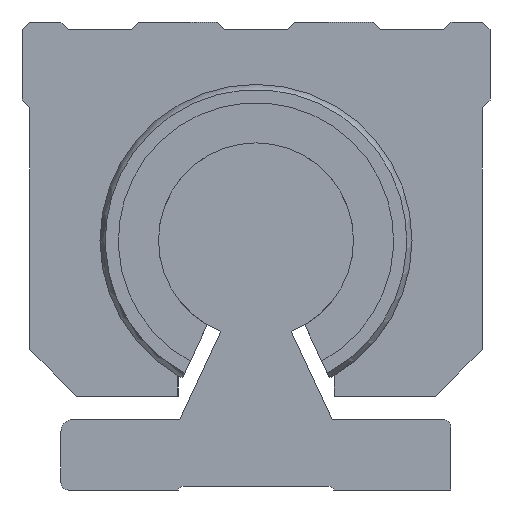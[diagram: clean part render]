
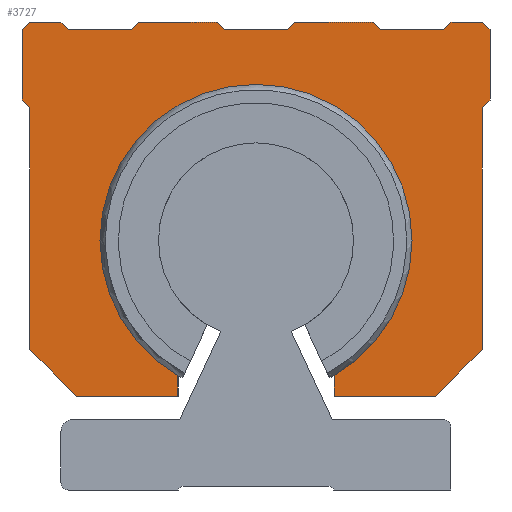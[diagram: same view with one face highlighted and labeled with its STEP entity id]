
A CAD part, left-side view. The second image highlights one B-rep face of the part: STEP entity #3727.
In plain terms, the highlighted planar face has unit normal (-1, 0, 0).
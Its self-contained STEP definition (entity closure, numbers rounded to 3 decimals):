
#3146=CARTESIAN_POINT('',(263.321,-10.,14.679));
#3147=VERTEX_POINT('',#3146);
#3154=CARTESIAN_POINT('',(263.321,10.,14.679));
#3155=VERTEX_POINT('',#3154);
#3156=CARTESIAN_POINT('',(263.321,0.,32.0));
#3157=DIRECTION('',(-1.0,0.0,0.0));
#3158=DIRECTION('',(0.0,-0.5,0.866));
#3159=AXIS2_PLACEMENT_3D('',#3156,#3157,#3158);
#3160=CIRCLE('',#3159,20.);
#3161=EDGE_CURVE('',#3147,#3155,#3160,.T.);
#3253=CARTESIAN_POINT('',(263.321,-15.,60.0));
#3254=VERTEX_POINT('',#3253);
#3255=CARTESIAN_POINT('',(263.321,-16.,59.));
#3256=VERTEX_POINT('',#3255);
#3257=CARTESIAN_POINT('',(263.321,-15.,60.0));
#3258=DIRECTION('',(0.0,-0.707,-0.707));
#3259=VECTOR('',#3258,1.414);
#3260=LINE('',#3257,#3259);
#3261=EDGE_CURVE('',#3254,#3256,#3260,.T.);
#3294=CARTESIAN_POINT('',(263.321,-24.,59.));
#3295=VERTEX_POINT('',#3294);
#3296=CARTESIAN_POINT('',(263.321,-16.,59.));
#3297=DIRECTION('',(0.0,-1.0,0.0));
#3298=VECTOR('',#3297,8.);
#3299=LINE('',#3296,#3298);
#3300=EDGE_CURVE('',#3256,#3295,#3299,.T.);
#3346=CARTESIAN_POINT('',(263.321,-4.,59.));
#3347=VERTEX_POINT('',#3346);
#3348=CARTESIAN_POINT('',(263.321,-5.,60.0));
#3349=VERTEX_POINT('',#3348);
#3350=CARTESIAN_POINT('',(263.321,-4.,59.));
#3351=DIRECTION('',(0.0,-0.707,0.707));
#3352=VECTOR('',#3351,1.414);
#3353=LINE('',#3350,#3352);
#3354=EDGE_CURVE('',#3347,#3349,#3353,.T.);
#3386=CARTESIAN_POINT('',(263.321,-25.,60.0));
#3387=VERTEX_POINT('',#3386);
#3388=CARTESIAN_POINT('',(263.321,-24.,59.));
#3389=DIRECTION('',(0.0,-0.707,0.707));
#3390=VECTOR('',#3389,1.414);
#3391=LINE('',#3388,#3390);
#3392=EDGE_CURVE('',#3295,#3387,#3391,.T.);
#3417=CARTESIAN_POINT('',(263.321,25.,60.0));
#3418=VERTEX_POINT('',#3417);
#3419=CARTESIAN_POINT('',(263.321,24.,59.));
#3420=VERTEX_POINT('',#3419);
#3421=CARTESIAN_POINT('',(263.321,25.,60.0));
#3422=DIRECTION('',(0.0,-0.707,-0.707));
#3423=VECTOR('',#3422,1.414);
#3424=LINE('',#3421,#3423);
#3425=EDGE_CURVE('',#3418,#3420,#3424,.T.);
#3458=CARTESIAN_POINT('',(263.321,16.,59.));
#3459=VERTEX_POINT('',#3458);
#3460=CARTESIAN_POINT('',(263.321,24.,59.));
#3461=DIRECTION('',(0.0,-1.0,0.0));
#3462=VECTOR('',#3461,8.0);
#3463=LINE('',#3460,#3462);
#3464=EDGE_CURVE('',#3420,#3459,#3463,.T.);
#3520=CARTESIAN_POINT('',(263.321,30.,59.));
#3521=VERTEX_POINT('',#3520);
#3528=CARTESIAN_POINT('',(263.321,29.,60.0));
#3529=VERTEX_POINT('',#3528);
#3530=CARTESIAN_POINT('',(263.321,30.,59.));
#3531=DIRECTION('',(0.0,-0.707,0.707));
#3532=VECTOR('',#3531,1.414);
#3533=LINE('',#3530,#3532);
#3534=EDGE_CURVE('',#3521,#3529,#3533,.T.);
#3551=CARTESIAN_POINT('',(263.321,29.,60.0));
#3552=DIRECTION('',(0.0,-1.0,0.0));
#3553=VECTOR('',#3552,4.);
#3554=LINE('',#3551,#3553);
#3555=EDGE_CURVE('',#3529,#3418,#3554,.T.);
#3567=CARTESIAN_POINT('',(263.321,-10.,59.5));
#3568=DIRECTION('',(1.0,0.0,0.0));
#3569=DIRECTION('',(0.0,0.0,-1.0));
#3570=AXIS2_PLACEMENT_3D('',#3567,#3568,#3569);
#3571=PLANE('',#3570);
#3572=ORIENTED_EDGE('',*,*,#3534,.F.);
#3573=CARTESIAN_POINT('',(263.321,30.,50.0));
#3574=VERTEX_POINT('',#3573);
#3575=CARTESIAN_POINT('',(263.321,30.,50.0));
#3576=DIRECTION('',(0.0,0.0,1.0));
#3577=VECTOR('',#3576,9.);
#3578=LINE('',#3575,#3577);
#3579=EDGE_CURVE('',#3574,#3521,#3578,.T.);
#3580=ORIENTED_EDGE('',*,*,#3579,.F.);
#3581=CARTESIAN_POINT('',(263.321,29.,49.));
#3582=VERTEX_POINT('',#3581);
#3583=CARTESIAN_POINT('',(263.321,29.,49.));
#3584=DIRECTION('',(0.0,0.707,0.707));
#3585=VECTOR('',#3584,1.414);
#3586=LINE('',#3583,#3585);
#3587=EDGE_CURVE('',#3582,#3574,#3586,.T.);
#3588=ORIENTED_EDGE('',*,*,#3587,.F.);
#3589=CARTESIAN_POINT('',(263.321,29.,18.));
#3590=VERTEX_POINT('',#3589);
#3591=CARTESIAN_POINT('',(263.321,29.,18.));
#3592=DIRECTION('',(0.0,0.0,1.0));
#3593=VECTOR('',#3592,31.0);
#3594=LINE('',#3591,#3593);
#3595=EDGE_CURVE('',#3590,#3582,#3594,.T.);
#3596=ORIENTED_EDGE('',*,*,#3595,.F.);
#3597=CARTESIAN_POINT('',(263.321,23.,12.));
#3598=VERTEX_POINT('',#3597);
#3599=CARTESIAN_POINT('',(263.321,23.,12.));
#3600=DIRECTION('',(0.0,0.707,0.707));
#3601=VECTOR('',#3600,8.485);
#3602=LINE('',#3599,#3601);
#3603=EDGE_CURVE('',#3598,#3590,#3602,.T.);
#3604=ORIENTED_EDGE('',*,*,#3603,.F.);
#3605=CARTESIAN_POINT('',(263.321,10.,12.));
#3606=VERTEX_POINT('',#3605);
#3607=CARTESIAN_POINT('',(263.321,10.,12.));
#3608=DIRECTION('',(0.0,1.0,0.0));
#3609=VECTOR('',#3608,13.);
#3610=LINE('',#3607,#3609);
#3611=EDGE_CURVE('',#3606,#3598,#3610,.T.);
#3612=ORIENTED_EDGE('',*,*,#3611,.F.);
#3613=CARTESIAN_POINT('',(263.321,10.,14.679));
#3614=DIRECTION('',(0.0,0.0,-1.0));
#3615=VECTOR('',#3614,2.679);
#3616=LINE('',#3613,#3615);
#3617=EDGE_CURVE('',#3155,#3606,#3616,.T.);
#3618=ORIENTED_EDGE('',*,*,#3617,.F.);
#3619=ORIENTED_EDGE('',*,*,#3161,.F.);
#3620=CARTESIAN_POINT('',(263.321,-10.,12.));
#3621=VERTEX_POINT('',#3620);
#3622=CARTESIAN_POINT('',(263.321,-10.,12.));
#3623=DIRECTION('',(0.0,0.0,1.0));
#3624=VECTOR('',#3623,2.679);
#3625=LINE('',#3622,#3624);
#3626=EDGE_CURVE('',#3621,#3147,#3625,.T.);
#3627=ORIENTED_EDGE('',*,*,#3626,.F.);
#3628=CARTESIAN_POINT('',(263.321,-23.,12.));
#3629=VERTEX_POINT('',#3628);
#3630=CARTESIAN_POINT('',(263.321,-23.,12.));
#3631=DIRECTION('',(0.0,1.0,0.0));
#3632=VECTOR('',#3631,13.);
#3633=LINE('',#3630,#3632);
#3634=EDGE_CURVE('',#3629,#3621,#3633,.T.);
#3635=ORIENTED_EDGE('',*,*,#3634,.F.);
#3636=CARTESIAN_POINT('',(263.321,-29.,18.));
#3637=VERTEX_POINT('',#3636);
#3638=CARTESIAN_POINT('',(263.321,-29.,18.));
#3639=DIRECTION('',(0.0,0.707,-0.707));
#3640=VECTOR('',#3639,8.485);
#3641=LINE('',#3638,#3640);
#3642=EDGE_CURVE('',#3637,#3629,#3641,.T.);
#3643=ORIENTED_EDGE('',*,*,#3642,.F.);
#3644=CARTESIAN_POINT('',(263.321,-29.,49.));
#3645=VERTEX_POINT('',#3644);
#3646=CARTESIAN_POINT('',(263.321,-29.,49.));
#3647=DIRECTION('',(0.0,0.0,-1.0));
#3648=VECTOR('',#3647,31.0);
#3649=LINE('',#3646,#3648);
#3650=EDGE_CURVE('',#3645,#3637,#3649,.T.);
#3651=ORIENTED_EDGE('',*,*,#3650,.F.);
#3652=CARTESIAN_POINT('',(263.321,-30.,50.0));
#3653=VERTEX_POINT('',#3652);
#3654=CARTESIAN_POINT('',(263.321,-30.,50.0));
#3655=DIRECTION('',(0.0,0.707,-0.707));
#3656=VECTOR('',#3655,1.414);
#3657=LINE('',#3654,#3656);
#3658=EDGE_CURVE('',#3653,#3645,#3657,.T.);
#3659=ORIENTED_EDGE('',*,*,#3658,.F.);
#3660=CARTESIAN_POINT('',(263.321,-30.,59.));
#3661=VERTEX_POINT('',#3660);
#3662=CARTESIAN_POINT('',(263.321,-30.,59.));
#3663=DIRECTION('',(0.0,0.0,-1.0));
#3664=VECTOR('',#3663,9.);
#3665=LINE('',#3662,#3664);
#3666=EDGE_CURVE('',#3661,#3653,#3665,.T.);
#3667=ORIENTED_EDGE('',*,*,#3666,.F.);
#3668=CARTESIAN_POINT('',(263.321,-29.,60.0));
#3669=VERTEX_POINT('',#3668);
#3670=CARTESIAN_POINT('',(263.321,-29.,60.0));
#3671=DIRECTION('',(0.0,-0.707,-0.707));
#3672=VECTOR('',#3671,1.414);
#3673=LINE('',#3670,#3672);
#3674=EDGE_CURVE('',#3669,#3661,#3673,.T.);
#3675=ORIENTED_EDGE('',*,*,#3674,.F.);
#3676=CARTESIAN_POINT('',(263.321,-25.,60.0));
#3677=DIRECTION('',(0.0,-1.0,0.0));
#3678=VECTOR('',#3677,4.);
#3679=LINE('',#3676,#3678);
#3680=EDGE_CURVE('',#3387,#3669,#3679,.T.);
#3681=ORIENTED_EDGE('',*,*,#3680,.F.);
#3682=ORIENTED_EDGE('',*,*,#3392,.F.);
#3683=ORIENTED_EDGE('',*,*,#3300,.F.);
#3684=ORIENTED_EDGE('',*,*,#3261,.F.);
#3685=CARTESIAN_POINT('',(263.321,-5.,60.0));
#3686=DIRECTION('',(0.0,-1.0,0.0));
#3687=VECTOR('',#3686,10.);
#3688=LINE('',#3685,#3687);
#3689=EDGE_CURVE('',#3349,#3254,#3688,.T.);
#3690=ORIENTED_EDGE('',*,*,#3689,.F.);
#3691=ORIENTED_EDGE('',*,*,#3354,.F.);
#3692=CARTESIAN_POINT('',(263.321,4.,59.));
#3693=VERTEX_POINT('',#3692);
#3694=CARTESIAN_POINT('',(263.321,4.,59.));
#3695=DIRECTION('',(0.0,-1.0,0.0));
#3696=VECTOR('',#3695,8.);
#3697=LINE('',#3694,#3696);
#3698=EDGE_CURVE('',#3693,#3347,#3697,.T.);
#3699=ORIENTED_EDGE('',*,*,#3698,.F.);
#3700=CARTESIAN_POINT('',(263.321,5.,60.0));
#3701=VERTEX_POINT('',#3700);
#3702=CARTESIAN_POINT('',(263.321,5.,60.0));
#3703=DIRECTION('',(0.0,-0.707,-0.707));
#3704=VECTOR('',#3703,1.414);
#3705=LINE('',#3702,#3704);
#3706=EDGE_CURVE('',#3701,#3693,#3705,.T.);
#3707=ORIENTED_EDGE('',*,*,#3706,.F.);
#3708=CARTESIAN_POINT('',(263.321,15.,60.0));
#3709=VERTEX_POINT('',#3708);
#3710=CARTESIAN_POINT('',(263.321,15.,60.0));
#3711=DIRECTION('',(0.0,-1.0,0.0));
#3712=VECTOR('',#3711,10.);
#3713=LINE('',#3710,#3712);
#3714=EDGE_CURVE('',#3709,#3701,#3713,.T.);
#3715=ORIENTED_EDGE('',*,*,#3714,.F.);
#3716=CARTESIAN_POINT('',(263.321,16.,59.));
#3717=DIRECTION('',(0.0,-0.707,0.707));
#3718=VECTOR('',#3717,1.414);
#3719=LINE('',#3716,#3718);
#3720=EDGE_CURVE('',#3459,#3709,#3719,.T.);
#3721=ORIENTED_EDGE('',*,*,#3720,.F.);
#3722=ORIENTED_EDGE('',*,*,#3464,.F.);
#3723=ORIENTED_EDGE('',*,*,#3425,.F.);
#3724=ORIENTED_EDGE('',*,*,#3555,.F.);
#3725=EDGE_LOOP('',(#3572,#3580,#3588,#3596,#3604,#3612,#3618,#3619,#3627,#3635,#3643,#3651,#3659,#3667,#3675,#3681,#3682,#3683,#3684,#3690,#3691,#3699,#3707,#3715,#3721,#3722,#3723,#3724));
#3726=FACE_OUTER_BOUND('',#3725,.T.);
#3727=ADVANCED_FACE('',(#3726),#3571,.F.);
